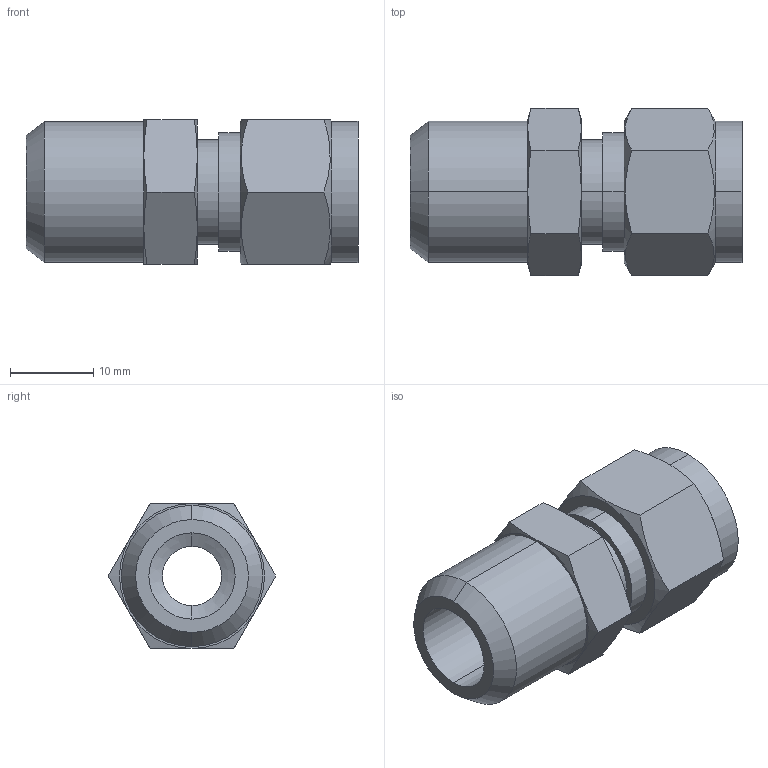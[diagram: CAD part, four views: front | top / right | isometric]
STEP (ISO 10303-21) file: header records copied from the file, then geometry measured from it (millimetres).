
FILE_DESCRIPTION (( 'STEP AP203' ), '1' );
FILE_NAME ('DCB06-06 SS.STEP', '2009-09-08T04:47:20', ( ' ' ), ( '' ), 'SwSTEP 2.0', 'SolidWorks 2008', '' );
FILE_SCHEMA (( 'CONFIG_CONTROL_DESIGN' ));
Length unit declared in the file: millimetre
Products named in the file (1): DCB06-06 SS
Bounding box: 40 x 20.16 x 17.46 mm (x, y, z)
Volume: 6484.5 mm3; surface area: 3947.8 mm2
Topology: 1 solids, 1 shells, 53 faces, 118 edges, 72 vertices
Faces by surface type: cone 20, plane 19, cylinder 14
Entity records: 1705 total; most frequent: CARTESIAN_POINT 492, ORIENTED_EDGE 236, DIRECTION 230, EDGE_CURVE 118, AXIS2_PLACEMENT_3D 98, VERTEX_POINT 72, EDGE_LOOP 60, FACE_OUTER_BOUND 53
